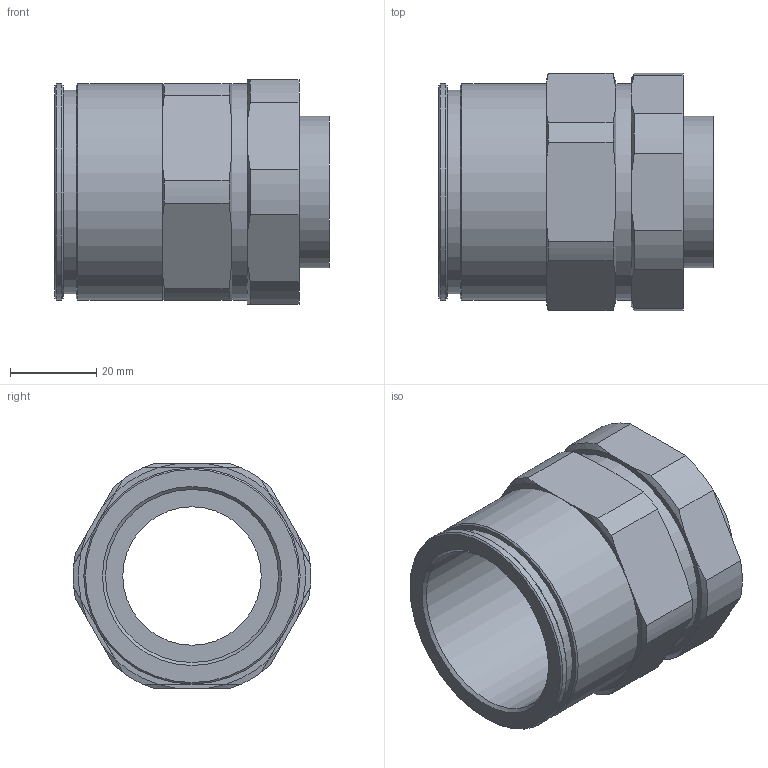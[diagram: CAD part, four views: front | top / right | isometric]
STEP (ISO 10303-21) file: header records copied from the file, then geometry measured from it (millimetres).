
FILE_DESCRIPTION( ( 'STEP AP214' ), '1' );
FILE_NAME( 'p:/temp/worker_9/temp/app_89_02018121420474285715002192d056f_000000_00_00_000000/format_1/6117-4035.stp', '2018-12-14T19:47:48', ( '' ), ( '' ), ' ', 'PARTsolutions', ' ' );
FILE_SCHEMA( ( 'AUTOMOTIVE_DESIGN { 1 0 10303 214 1 1 1 1 }' ) );
Length unit declared in the file: millimetre
Products named in the file (1): _6117-4035
Bounding box: 63.5 x 54.97 x 52 mm (x, y, z)
Volume: 47152.9 mm3; surface area: 24820.8 mm2
Topology: 1 solids, 1 shells, 68 faces, 162 edges, 102 vertices
Faces by surface type: plane 26, cone 22, cylinder 20
Full cylindrical faces by diameter (mm): 32 x1, 35 x1, 40 x1, 43.5 x1, 47 x1, 50 x3
Entity records: 2544 total; most frequent: CARTESIAN_POINT 465, DIRECTION 318, ORIENTED_EDGE 300, EDGE_CURVE 150, AXIS2_PLACEMENT_3D 135, VERTEX_POINT 102, EDGE_LOOP 88, FACE_OUTER_BOUND 76
